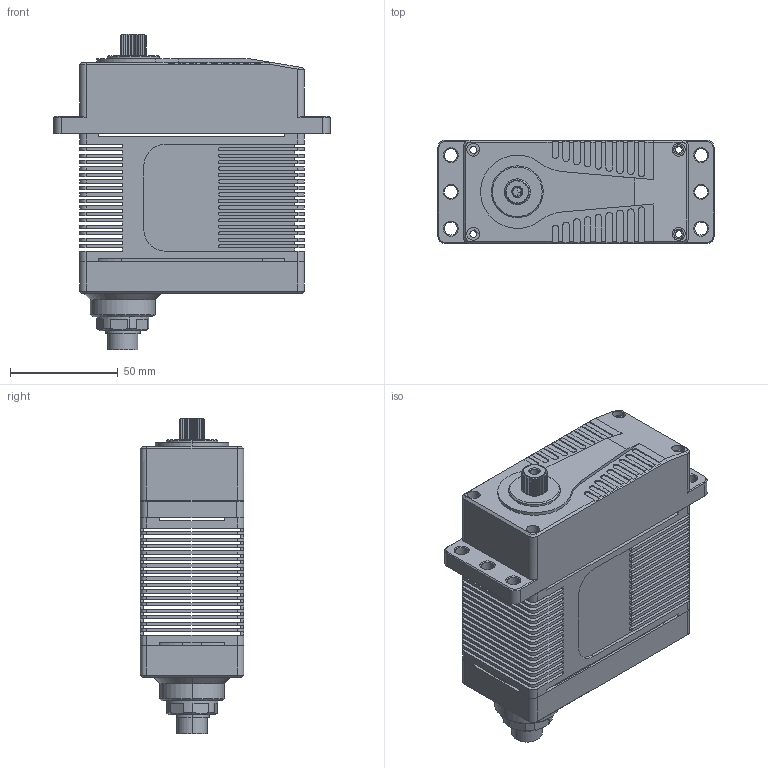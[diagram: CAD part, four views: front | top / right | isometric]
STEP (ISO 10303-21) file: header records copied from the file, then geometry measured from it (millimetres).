
FILE_DESCRIPTION (( 'STEP AP214' ), '1' );
FILE_NAME ('X50-28-625WP_DM_20211213..STEP', '2021-12-13T04:07:10', ( '微软用户' ), ( '微软中国' ), 'SwSTEP 2.0', 'SolidWorks 2016', '' );
FILE_SCHEMA (( 'AUTOMOTIVE_DESIGN' ));
Length unit declared in the file: millimetre
Products named in the file (1): X50-28-625WP_DM_20211213.
Bounding box: 128 x 48 x 146.4 mm (x, y, z)
Surface area: 59744.6 mm2 (no closed solid volume)
Topology: 0 solids, 7 shells, 804 faces, 2742 edges, 1914 vertices
Faces by surface type: plane 400, cylinder 324, cone 78, bspline 2
Entity records: 39176 total; most frequent: CARTESIAN_POINT 6391, DIRECTION 5026, ORIENTED_EDGE 4816, EDGE_CURVE 2742, VERTEX_POINT 1914, VECTOR 1690, LINE 1690, AXIS2_PLACEMENT_3D 1668
